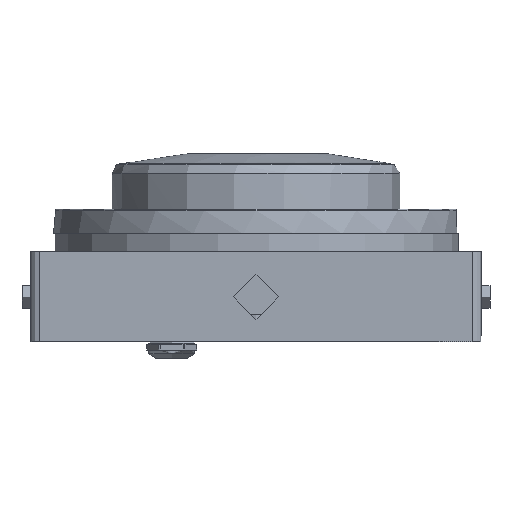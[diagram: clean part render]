
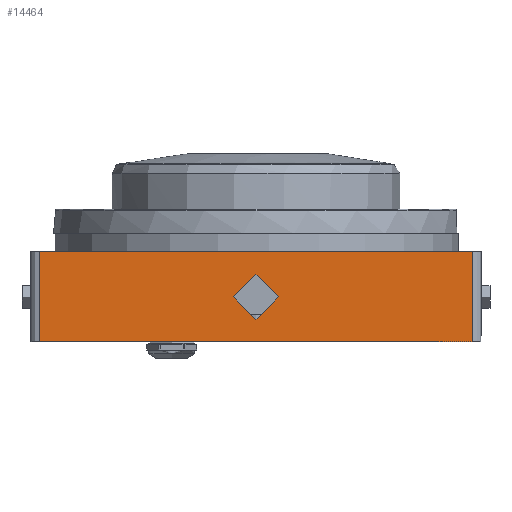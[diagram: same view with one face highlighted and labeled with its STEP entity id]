
A CAD part, front view. The second image highlights one B-rep face of the part: STEP entity #14464.
In plain terms, the highlighted planar face has unit normal (0, -1, 0).
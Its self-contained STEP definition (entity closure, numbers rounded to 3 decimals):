
#1002=FACE_BOUND('',#2321,.T.);
#1061=PLANE('',#15456);
#1351=FACE_OUTER_BOUND('',#2320,.T.);
#2320=EDGE_LOOP('',(#9814,#9815,#9816,#9817));
#2321=EDGE_LOOP('',(#9818));
#3349=LINE('',#21892,#4215);
#3350=LINE('',#21894,#4216);
#3351=LINE('',#21896,#4217);
#3352=LINE('',#21897,#4218);
#4215=VECTOR('',#17320,10.);
#4216=VECTOR('',#17321,10.);
#4217=VECTOR('',#17322,10.);
#4218=VECTOR('',#17323,10.);
#5077=CIRCLE('',#15454,5.);
#6139=VERTEX_POINT('',#21877);
#6144=VERTEX_POINT('',#21890);
#6145=VERTEX_POINT('',#21891);
#6146=VERTEX_POINT('',#21893);
#6147=VERTEX_POINT('',#21895);
#7515=EDGE_CURVE('',#6139,#6139,#5077,.T.);
#7520=EDGE_CURVE('',#6144,#6145,#3349,.T.);
#7521=EDGE_CURVE('',#6144,#6146,#3350,.T.);
#7522=EDGE_CURVE('',#6147,#6146,#3351,.T.);
#7523=EDGE_CURVE('',#6145,#6147,#3352,.T.);
#9814=ORIENTED_EDGE('',*,*,#7520,.F.);
#9815=ORIENTED_EDGE('',*,*,#7521,.T.);
#9816=ORIENTED_EDGE('',*,*,#7522,.F.);
#9817=ORIENTED_EDGE('',*,*,#7523,.F.);
#9818=ORIENTED_EDGE('',*,*,#7515,.F.);
#14464=ADVANCED_FACE('',(#1351,#1002),#1061,.F.);
#15454=AXIS2_PLACEMENT_3D('',#21879,#17310,#17311);
#15456=AXIS2_PLACEMENT_3D('',#21889,#17318,#17319);
#17310=DIRECTION('center_axis',(0.,-1.,0.));
#17311=DIRECTION('ref_axis',(1.,0.,0.));
#17318=DIRECTION('center_axis',(0.,1.,0.));
#17319=DIRECTION('ref_axis',(1.,0.,0.));
#17320=DIRECTION('',(0.,0.,1.));
#17321=DIRECTION('',(1.,0.,0.));
#17322=DIRECTION('',(0.,0.,-1.));
#17323=DIRECTION('',(1.,0.,0.));
#21877=CARTESIAN_POINT('',(-5.,-52.,-513.901));
#21879=CARTESIAN_POINT('Origin',(0.,-52.,-513.901));
#21889=CARTESIAN_POINT('Origin',(0.,-52.,-513.901));
#21890=CARTESIAN_POINT('',(-48.,-52.,-523.901));
#21891=CARTESIAN_POINT('',(-48.,-52.,-503.901));
#21892=CARTESIAN_POINT('',(-48.,-52.,-523.901));
#21893=CARTESIAN_POINT('',(48.,-52.,-523.901));
#21894=CARTESIAN_POINT('',(-48.,-52.,-523.901));
#21895=CARTESIAN_POINT('',(48.,-52.,-503.901));
#21896=CARTESIAN_POINT('',(48.,-52.,-503.901));
#21897=CARTESIAN_POINT('',(-48.,-52.,-503.901));
